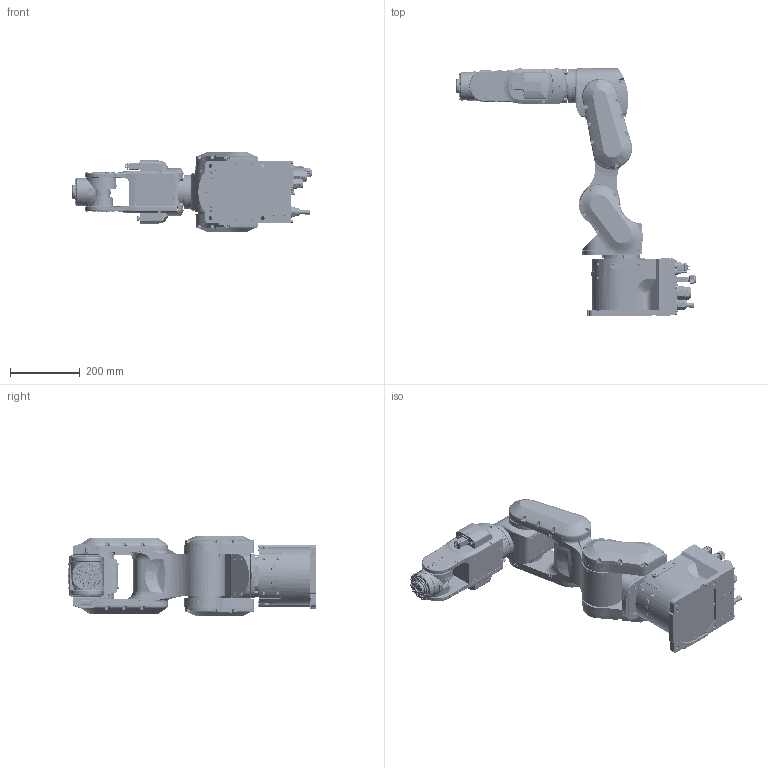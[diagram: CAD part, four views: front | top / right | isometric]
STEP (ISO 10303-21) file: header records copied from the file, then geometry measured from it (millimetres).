
FILE_DESCRIPTION (( 'STEP AP214' ), '1' );
FILE_NAME ('CX7-x701P.STEP', '2026-08-04T20:58:57', ( '' ), ( '' ), 'SwSTEP 2.0', 'SolidWorks 2020', '' );
FILE_SCHEMA (( 'AUTOMOTIVE_DESIGN' ));
Length unit declared in the file: millimetre
Products named in the file (8): CX7-A701P_BASE; CX7-A701P_J1; CX7-A701P_J6; CX7-x701P; CX7-A701P_J2; CX7-A701P_J4; CX7-A701P_J3; CX7-A701P_J5
Assembly tree (7 placements, depth 2):
  CX7-x701P
    CX7-A701P_BASE
    CX7-A701P_J1
    CX7-A701P_J2
    CX7-A701P_J3
    CX7-A701P_J4
    CX7-A701P_J5
    CX7-A701P_J6
Bounding box: 687 x 712 x 228 mm (x, y, z)
Volume: 7845962.8 mm3; surface area: 1140871.1 mm2
Topology: 4 solids, 8 shells, 5266 faces, 13073 edges, 8144 vertices
Faces by surface type: plane 1969, cylinder 1795, cone 926, torus 463, bspline 76, sphere 37
Entity records: 243579 total; most frequent: CARTESIAN_POINT 106775, ORIENTED_EDGE 25834, DIRECTION 15766, EDGE_CURVE 12923, B_SPLINE_CURVE_WITH_KNOTS 9366, VERTEX_POINT 8144, AXIS2_PLACEMENT_3D 7053, EDGE_LOOP 5776
